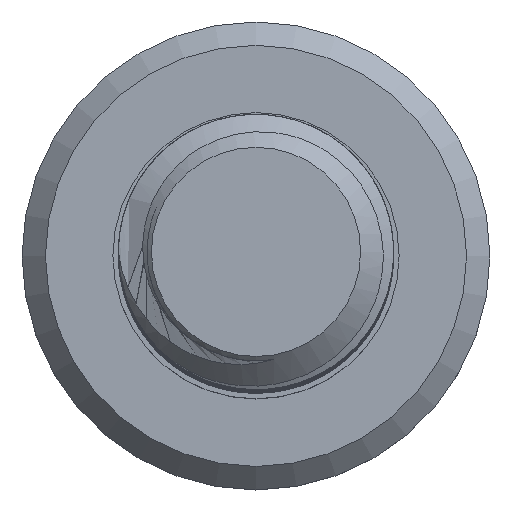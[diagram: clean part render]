
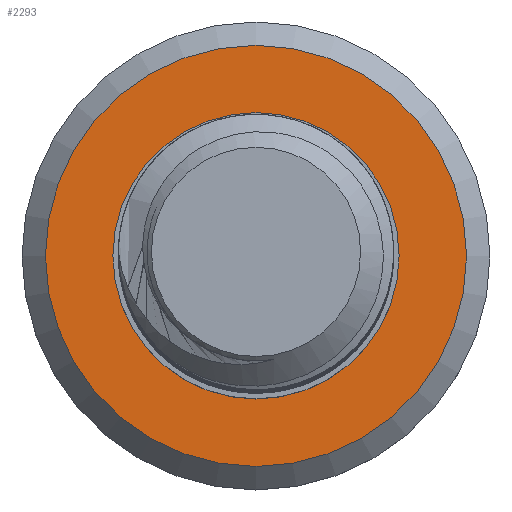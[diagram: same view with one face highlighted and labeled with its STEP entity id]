
A CAD part, top view. The second image highlights one B-rep face of the part: STEP entity #2293.
In plain terms, the highlighted planar face has unit normal (0, 0, 1).
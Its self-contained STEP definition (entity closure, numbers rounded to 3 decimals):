
#15=FACE_BOUND('',#292,.T.);
#19=PLANE('',#2448);
#163=FACE_OUTER_BOUND('',#291,.T.);
#291=EDGE_LOOP('',(#2025));
#292=EDGE_LOOP('',(#2026));
#313=CIRCLE('',#2428,2.6);
#317=CIRCLE('',#2433,3.825);
#988=VERTEX_POINT('',#10519);
#992=VERTEX_POINT('',#10529);
#1320=EDGE_CURVE('',#988,#988,#313,.T.);
#1326=EDGE_CURVE('',#992,#992,#317,.T.);
#2025=ORIENTED_EDGE('',*,*,#1326,.T.);
#2026=ORIENTED_EDGE('',*,*,#1320,.F.);
#2293=ADVANCED_FACE('',(#163,#15),#19,.F.);
#2428=AXIS2_PLACEMENT_3D('',#10520,#2783,#2784);
#2433=AXIS2_PLACEMENT_3D('',#10531,#2795,#2796);
#2448=AXIS2_PLACEMENT_3D('',#13237,#2828,#2829);
#2783=DIRECTION('center_axis',(0.,0.,1.));
#2784=DIRECTION('ref_axis',(-1.,0.,0.));
#2795=DIRECTION('center_axis',(0.,0.,1.));
#2796=DIRECTION('ref_axis',(-1.,0.,0.));
#2828=DIRECTION('center_axis',(0.,0.,-1.));
#2829=DIRECTION('ref_axis',(-1.,0.,0.));
#10519=CARTESIAN_POINT('',(2.6,0.,-41.7));
#10520=CARTESIAN_POINT('Origin',(0.,0.,-41.7));
#10529=CARTESIAN_POINT('',(3.825,0.,-41.7));
#10531=CARTESIAN_POINT('Origin',(0.,0.,-41.7));
#13237=CARTESIAN_POINT('Origin',(0.,0.,-41.7));
